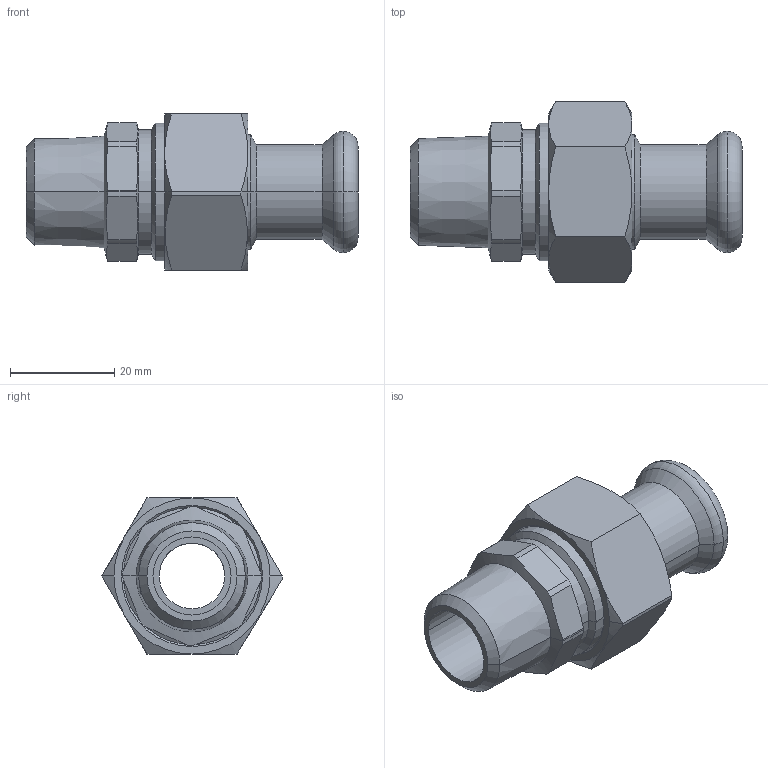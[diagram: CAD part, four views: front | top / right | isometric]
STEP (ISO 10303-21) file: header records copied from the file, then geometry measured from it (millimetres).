
FILE_DESCRIPTION(('CoCreate Modeling STEP Export'),'2;1');
FILE_NAME('C1435 15xR1-2.stp','2014-11-12T16:30:48',(''),(''),'CoCreate Modeling STEP processor for AP214 (Solid Model)','CoCreate Modeling 17.00A 17-Jun-2010 (C) Parametric Technology GmbH','');
FILE_SCHEMA(('AUTOMOTIVE_DESIGN { 1 0 10303 214 1 1 1 1 }'));
Length unit declared in the file: millimetre
Products named in the file (2): C1435_15xR1-2
Assembly tree (1 placements, depth 2):
  C1435_15xR1-2
    C1435_15xR1-2
Bounding box: 63.8 x 34.64 x 30 mm (x, y, z)
Volume: 17302.3 mm3; surface area: 10820.5 mm2
Topology: 1 solids, 1 shells, 106 faces, 234 edges, 137 vertices
Faces by surface type: cone 40, cylinder 35, plane 23, torus 8
Entity records: 4089 total; most frequent: CARTESIAN_POINT 2054, ORIENTED_EDGE 468, DIRECTION 331, EDGE_CURVE 234, VERTEX_POINT 137, AXIS2_PLACEMENT_3D 126, EDGE_LOOP 115, FACE_OUTER_BOUND 106
